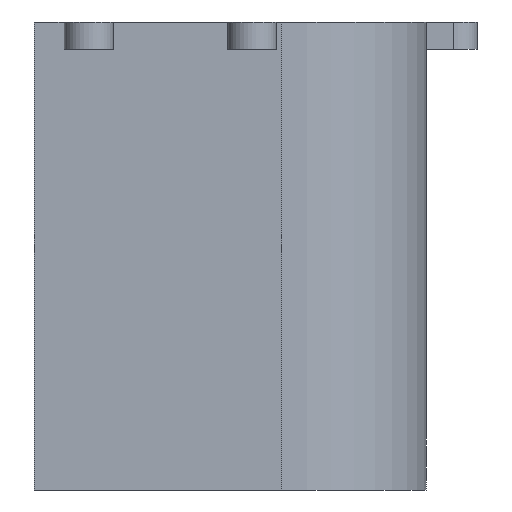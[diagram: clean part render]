
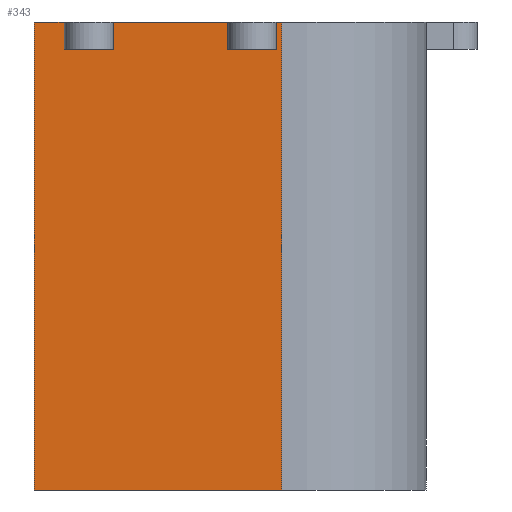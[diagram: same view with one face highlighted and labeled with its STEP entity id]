
A CAD part, front view. The second image highlights one B-rep face of the part: STEP entity #343.
In plain terms, the highlighted planar face has unit normal (0, -1, 0).
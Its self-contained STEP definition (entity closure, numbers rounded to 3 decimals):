
#343=ADVANCED_FACE('',(#784),#785,.T.);
#784=FACE_OUTER_BOUND('',#1316,.T.);
#785=PLANE('',#1317);
#1316=EDGE_LOOP('',(#2381,#2382,#2383,#2384,#2385,#2386,#2387,#2388,#2389,#2390,#2391,#2392));
#1317=AXIS2_PLACEMENT_3D('',#2393,#2394,#2395);
#2381=ORIENTED_EDGE('',*,*,#3593,.F.);
#2382=ORIENTED_EDGE('',*,*,#3348,.T.);
#2383=ORIENTED_EDGE('',*,*,#3594,.T.);
#2384=ORIENTED_EDGE('',*,*,#3380,.T.);
#2385=ORIENTED_EDGE('',*,*,#3595,.F.);
#2386=ORIENTED_EDGE('',*,*,#3596,.T.);
#2387=ORIENTED_EDGE('',*,*,#3545,.T.);
#2388=ORIENTED_EDGE('',*,*,#3357,.T.);
#2389=ORIENTED_EDGE('',*,*,#3597,.F.);
#2390=ORIENTED_EDGE('',*,*,#3598,.T.);
#2391=ORIENTED_EDGE('',*,*,#3518,.T.);
#2392=ORIENTED_EDGE('',*,*,#3354,.T.);
#2393=CARTESIAN_POINT('',(238.75,-72.,0.0));
#2394=DIRECTION('',(0.,-1.0,0.0));
#2395=DIRECTION('',(1.0,0.,0.0));
#3348=EDGE_CURVE('',#4123,#4124,#4125,.T.);
#3354=EDGE_CURVE('',#4135,#4133,#4136,.T.);
#3357=EDGE_CURVE('',#4140,#4138,#4141,.T.);
#3380=EDGE_CURVE('',#4182,#4180,#4183,.T.);
#3518=EDGE_CURVE('',#4412,#4135,#4413,.T.);
#3545=EDGE_CURVE('',#4446,#4140,#4447,.T.);
#3593=EDGE_CURVE('',#4123,#4133,#4508,.T.);
#3594=EDGE_CURVE('',#4124,#4182,#4509,.T.);
#3595=EDGE_CURVE('',#4510,#4180,#4511,.T.);
#3596=EDGE_CURVE('',#4510,#4446,#4512,.T.);
#3597=EDGE_CURVE('',#4513,#4138,#4514,.T.);
#3598=EDGE_CURVE('',#4513,#4412,#4515,.T.);
#4123=VERTEX_POINT('',#5354);
#4124=VERTEX_POINT('',#5355);
#4125=LINE('',#5356,#5357);
#4133=VERTEX_POINT('',#5367);
#4135=VERTEX_POINT('',#5370);
#4136=LINE('',#5371,#5372);
#4138=VERTEX_POINT('',#5375);
#4140=VERTEX_POINT('',#5378);
#4141=LINE('',#5379,#5380);
#4180=VERTEX_POINT('',#5430);
#4182=VERTEX_POINT('',#5433);
#4183=LINE('',#5434,#5435);
#4412=VERTEX_POINT('',#5798);
#4413=LINE('',#5799,#5800);
#4446=VERTEX_POINT('',#5878);
#4447=LINE('',#5879,#5880);
#4508=LINE('',#5996,#5997);
#4509=LINE('',#5998,#5999);
#4510=VERTEX_POINT('',#6000);
#4511=LINE('',#6001,#6002);
#4512=LINE('',#6003,#6004);
#4513=VERTEX_POINT('',#6005);
#4514=LINE('',#6006,#6007);
#4515=LINE('',#6008,#6009);
#5354=CARTESIAN_POINT('',(230.5,-72.,81.0));
#5355=CARTESIAN_POINT('',(221.5,-72.,81.0));
#5356=CARTESIAN_POINT('',(256.375,-72.,81.0));
#5357=VECTOR('',#6691,1.0);
#5367=CARTESIAN_POINT('',(230.5,-72.,86.0));
#5370=CARTESIAN_POINT('',(251.5,-72.,86.0));
#5371=CARTESIAN_POINT('',(216.,-72.,86.0));
#5372=VECTOR('',#6698,1.0);
#5375=CARTESIAN_POINT('',(260.5,-72.,86.0));
#5378=CARTESIAN_POINT('',(261.5,-72.,86.0));
#5379=CARTESIAN_POINT('',(216.,-72.,86.0));
#5380=VECTOR('',#6701,1.0);
#5430=CARTESIAN_POINT('',(216.,-72.,86.0));
#5433=CARTESIAN_POINT('',(221.5,-72.,86.0));
#5434=CARTESIAN_POINT('',(216.,-72.,86.0));
#5435=VECTOR('',#6744,1.0);
#5798=CARTESIAN_POINT('',(251.5,-72.,81.0));
#5799=CARTESIAN_POINT('',(251.5,-72.,81.0));
#5800=VECTOR('',#6953,1.0);
#5878=CARTESIAN_POINT('',(261.5,-72.,0.0));
#5879=CARTESIAN_POINT('',(261.5,-72.,0.0));
#5880=VECTOR('',#6977,1.0);
#5996=CARTESIAN_POINT('',(230.5,-72.,81.0));
#5997=VECTOR('',#7022,1.0);
#5998=CARTESIAN_POINT('',(221.5,-72.,81.0));
#5999=VECTOR('',#7023,1.0);
#6000=CARTESIAN_POINT('',(216.,-72.,0.0));
#6001=CARTESIAN_POINT('',(216.,-72.,0.0));
#6002=VECTOR('',#7024,1.0);
#6003=CARTESIAN_POINT('',(256.375,-72.,0.0));
#6004=VECTOR('',#7025,1.0);
#6005=CARTESIAN_POINT('',(260.5,-72.,81.0));
#6006=CARTESIAN_POINT('',(260.5,-72.,81.0));
#6007=VECTOR('',#7026,1.0);
#6008=CARTESIAN_POINT('',(256.375,-72.,81.0));
#6009=VECTOR('',#7027,1.0);
#6691=DIRECTION('',(-1.0,0.0,-0.0));
#6698=DIRECTION('',(-1.0,0.,0.0));
#6701=DIRECTION('',(-1.0,0.,0.0));
#6744=DIRECTION('',(-1.0,0.,0.0));
#6953=DIRECTION('',(0.0,0.,1.0));
#6977=DIRECTION('',(0.0,0.0,1.0));
#7022=DIRECTION('',(0.0,0.,1.0));
#7023=DIRECTION('',(0.0,0.,1.0));
#7024=DIRECTION('',(0.0,0.0,1.0));
#7025=DIRECTION('',(1.0,0.0,0.0));
#7026=DIRECTION('',(0.0,0.,1.0));
#7027=DIRECTION('',(-1.0,0.0,-0.0));
